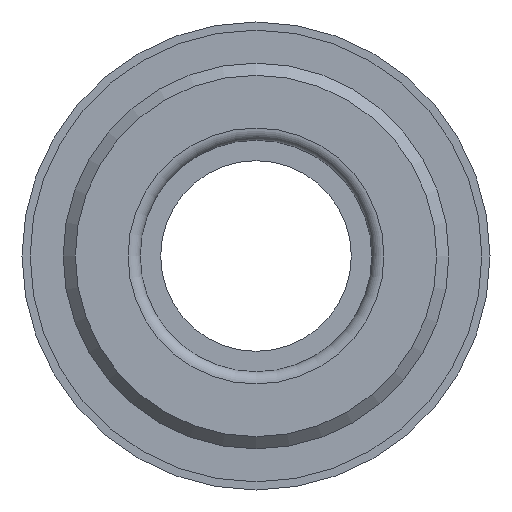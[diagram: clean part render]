
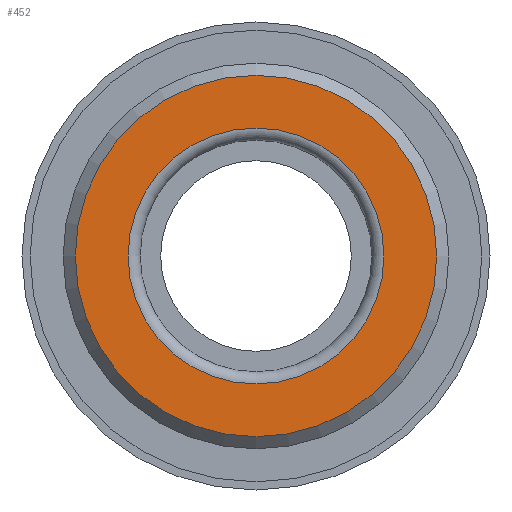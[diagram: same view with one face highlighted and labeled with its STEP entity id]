
A CAD part, left-side view. The second image highlights one B-rep face of the part: STEP entity #452.
In plain terms, the highlighted planar face has unit normal (-1, 0, 0).
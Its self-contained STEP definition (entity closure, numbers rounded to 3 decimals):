
#40=PLANE('',#506);
#58=CIRCLE('',#507,14.122);
#59=CIRCLE('',#508,10.);
#97=ORIENTED_EDGE('',*,*,#215,.F.);
#98=ORIENTED_EDGE('',*,*,#216,.F.);
#215=EDGE_CURVE('',#270,#270,#58,.T.);
#216=EDGE_CURVE('',#271,#271,#59,.F.);
#270=VERTEX_POINT('',#763);
#271=VERTEX_POINT('',#765);
#329=EDGE_LOOP('',(#97));
#330=EDGE_LOOP('',(#98));
#383=FACE_BOUND('',#329,.T.);
#384=FACE_BOUND('',#330,.T.);
#452=ADVANCED_FACE('',(#383,#384),#40,.F.);
#506=AXIS2_PLACEMENT_3D('',#761,#583,#584);
#507=AXIS2_PLACEMENT_3D('',#762,#585,#586);
#508=AXIS2_PLACEMENT_3D('',#764,#587,#588);
#583=DIRECTION('',(1.,0.,0.));
#584=DIRECTION('',(0.,0.,-1.));
#585=DIRECTION('',(1.,0.,0.));
#586=DIRECTION('',(0.,0.,-1.));
#587=DIRECTION('',(1.,0.,0.));
#588=DIRECTION('',(0.,0.,-1.));
#761=CARTESIAN_POINT('',(-0.953,0.,0.));
#762=CARTESIAN_POINT('',(-0.953,0.,0.));
#763=CARTESIAN_POINT('',(-0.953,0.,-14.122));
#764=CARTESIAN_POINT('',(-0.953,0.,0.));
#765=CARTESIAN_POINT('',(-0.953,0.,-10.));
